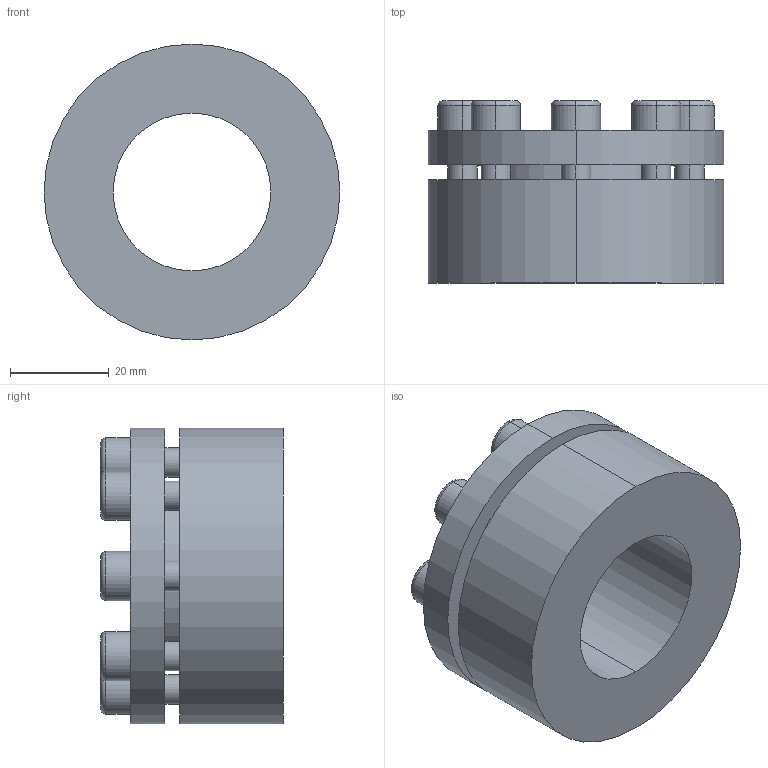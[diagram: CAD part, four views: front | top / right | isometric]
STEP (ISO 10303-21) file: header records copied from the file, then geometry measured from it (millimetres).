
FILE_DESCRIPTION (( 'STEP AP203' ), '1' );
FILE_NAME ('PL-H1 32-60.STEP', '2021-10-23T00:53:43', ( '' ), ( '' ), 'SwSTEP 2.0', 'SolidWorks 2018', '' );
FILE_SCHEMA (( 'CONFIG_CONTROL_DESIGN' ));
Length unit declared in the file: millimetre
Products named in the file (1): PL-H1 32-60
Bounding box: 60 x 37 x 60 mm (x, y, z)
Volume: 61516.2 mm3; surface area: 17997.7 mm2
Topology: 1 solids, 1 shells, 124 faces, 296 edges, 192 vertices
Faces by surface type: plane 68, cylinder 40, torus 16
Entity records: 3717 total; most frequent: DIRECTION 658, CARTESIAN_POINT 613, ORIENTED_EDGE 592, EDGE_CURVE 296, AXIS2_PLACEMENT_3D 237, VERTEX_POINT 192, LINE 184, VECTOR 184
